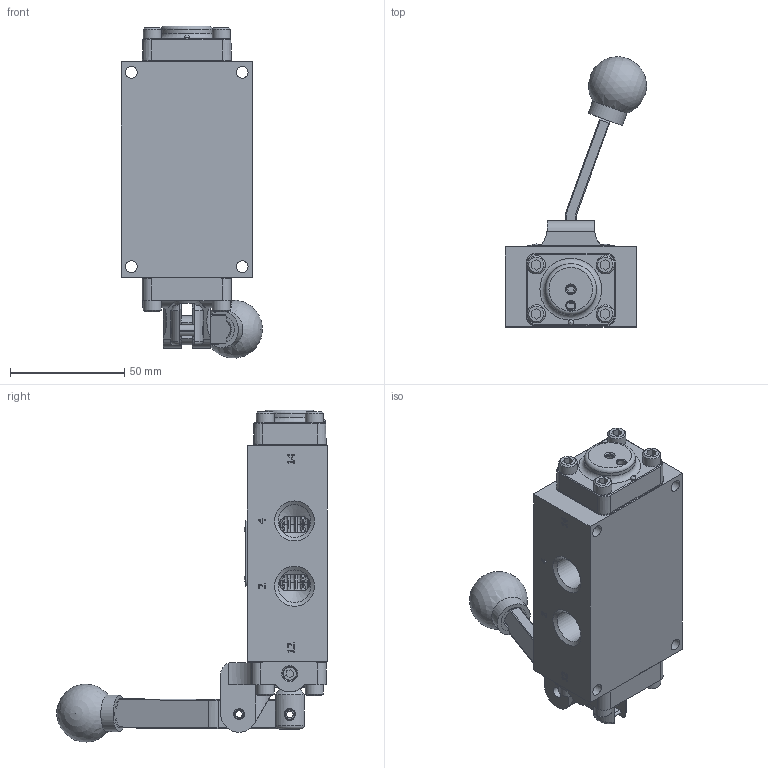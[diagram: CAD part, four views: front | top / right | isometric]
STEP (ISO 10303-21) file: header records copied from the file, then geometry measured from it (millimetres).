
FILE_DESCRIPTION(/* description */ (''),/* implementation_level */ '2;1');
FILE_NAME(/* name */ 'D:\Website Files\stp\Valves\Lever\HX\HX3BL.stp',/* time_stamp */ '2016-02-29T23:06:10-05:00',/* author */ ('RMcKenna'),/* organization */ (''),/* preprocessor_version */ 'ST-DEVELOPER v15.6',/* originating_system */ 'Autodesk Inventor 2015',/* authorisation */ '');
FILE_SCHEMA (('AUTOMOTIVE_DESIGN { 1 0 10303 214 3 1 1 }'));
Length unit declared in the file: centimetre
Products named in the file (1): Part6
Bounding box: 61.68 x 118.22 x 145.13 mm (x, y, z)
Volume: 204817.2 mm3; surface area: 64659 mm2
Topology: 3 solids, 30 shells, 1277 faces, 3139 edges, 2006 vertices
Faces by surface type: plane 568, cone 274, cylinder 229, bspline 102, torus 99, sphere 5
Full cylindrical faces by diameter (mm): 2.07 x2, 2.261 x2, 2.778 x2, 3.175 x2, 3.618 x1, 3.683 x12, 3.912 x3, 4.75 x2, 4.763 x2, 4.826 x8, 4.978 x6, 5.055 x1, 5.156 x12, 7.798 x1, 7.938 x8, 9.525 x1, 9.728 x1, 11.113 x1, 11.303 x3, 12.141 x1, 14.275 x2, 14.287 x5, 15.596 x1, 15.926 x1, 18.618 x1, 18.745 x12, 19.177 x2, 22.327 x1, 23.825 x6
Entity records: 40269 total; most frequent: CARTESIAN_POINT 11044, ORIENTED_EDGE 5620, DIRECTION 5530, EDGE_CURVE 2809, AXIS2_PLACEMENT_3D 2064, VERTEX_POINT 1911, EDGE_LOOP 1657, LINE 1402
